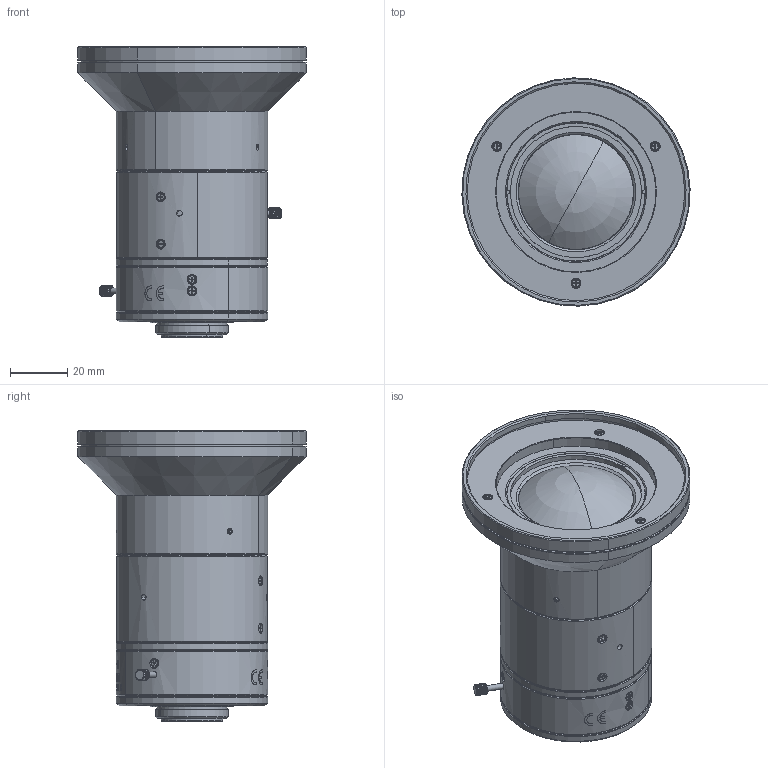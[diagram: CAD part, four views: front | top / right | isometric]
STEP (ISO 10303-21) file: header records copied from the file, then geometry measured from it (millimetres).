
FILE_DESCRIPTION(('CATIA V5 STEP Exchange'),'2;1');
FILE_NAME('\\Cadsys-srv224\13_特機設技-秘\01_機構設計\01_機種別\00.開発・量産機種\CATIA_data\EC002E0000(M692 f=8)\07_to客先\11_TEG\3D外観_stp\20150116\M111FM08.stp','2015-01-28T07:24:48+00:00',('none'),('none'),'CATIA Version 5 Release 19 SP 8 (IN-10)','CATIA V5 STEP AP203','none');
FILE_SCHEMA(('CONFIG_CONTROL_DESIGN'));
Products named in the file (1): M111FM08
Bounding box: 79.98 x 79.98 x 101.86 mm (x, y, z)
Volume: 232470.3 mm3; surface area: 38661.9 mm2
Topology: 1 solids, 12 shells, 2176 faces, 5989 edges, 3937 vertices
Faces by surface type: bspline 1226, plane 358, cylinder 324, cone 228, torus 32, sphere 8
Entity records: 85463 total; most frequent: CARTESIAN_POINT 43053, ORIENTED_EDGE 11922, EDGE_CURVE 5961, B_SPLINE_CURVE_WITH_KNOTS 4135, VERTEX_POINT 3937, DIRECTION 3234, EDGE_LOOP 2344, ADVANCED_FACE 2176
